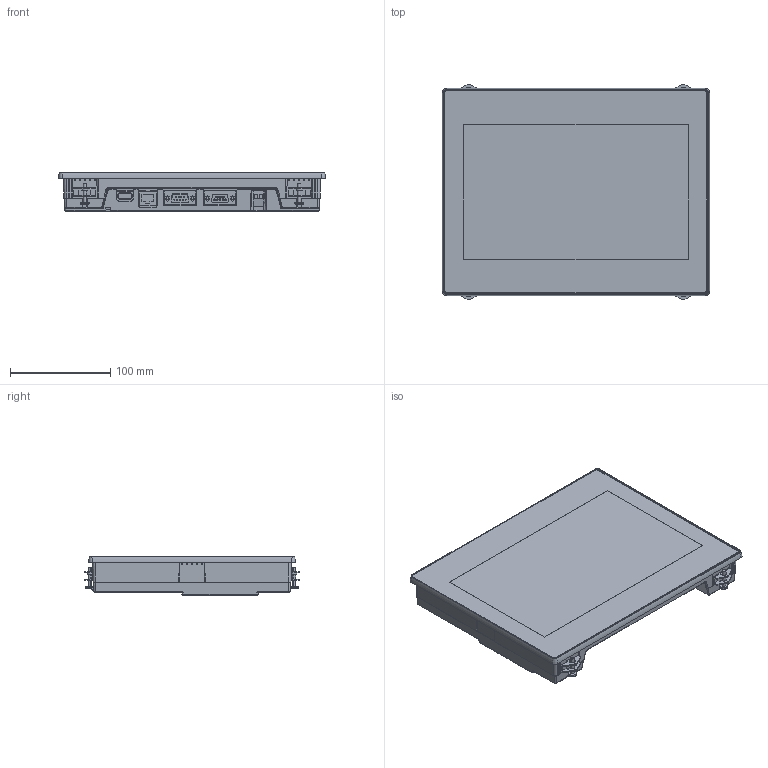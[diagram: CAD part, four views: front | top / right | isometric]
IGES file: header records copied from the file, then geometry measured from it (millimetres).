
Start section:  PTC IGES file: ts1100si_3d-data.igs
Global section: file name: ts1100si_3d-data.igs; native system: Pro/ENGINEER by Parametric Technology Corporation; preprocessor: 2011490; author: oda; organization: Unknown; date: 20180724.152802; units: millimetre
Bounding box: 266.8 x 214.8 x 38 mm (x, y, z)
Surface area: 159521.7 mm2 (no closed solid volume)
Topology: 0 solids, 0 shells, 1276 faces, 6626 edges, 6626 vertices
Faces by surface type: bspline 904, revolution 372
